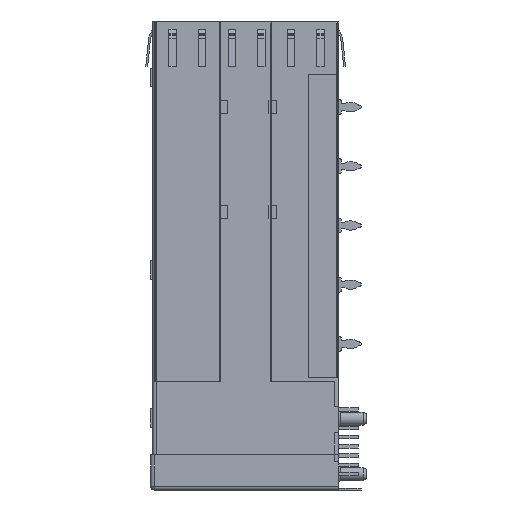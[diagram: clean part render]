
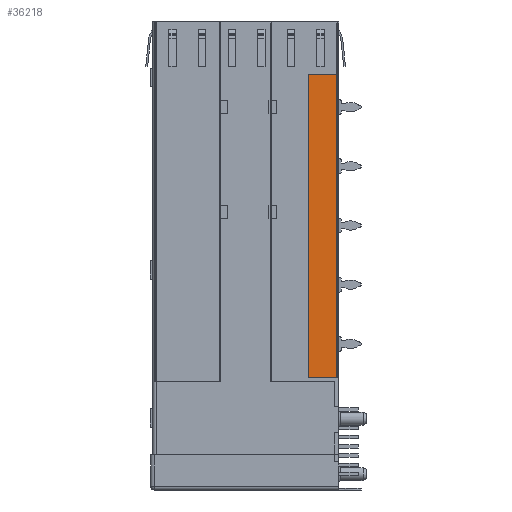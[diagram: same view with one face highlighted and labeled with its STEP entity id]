
A CAD part, left-side view. The second image highlights one B-rep face of the part: STEP entity #36218.
In plain terms, the highlighted planar face has unit normal (-1, 0, 0).
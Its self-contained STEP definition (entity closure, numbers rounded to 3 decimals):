
#994 = EDGE_CURVE ( 'NONE', #111119, #138704, #77386, .T. ) ;
#2453 = EDGE_CURVE ( 'NONE', #151196, #73091, #64680, .T. ) ;
#3874 = LINE ( 'NONE', #181348, #121492 ) ;
#19554 = CARTESIAN_POINT ( 'NONE',  ( -85.875, 0., 0. ) ) ;
#23918 = VECTOR ( 'NONE', #111802, 1000. ) ;
#35038 = PLANE ( 'NONE',  #102233 ) ;
#36218 = ADVANCED_FACE ( 'NONE', ( #37004 ), #35038, .F. ) ;
#37004 = FACE_OUTER_BOUND ( 'NONE', #58368, .T. ) ;
#50426 = DIRECTION ( 'NONE',  ( 0., 0., 1. ) ) ;
#53252 = CARTESIAN_POINT ( 'NONE',  ( -85.875, 0., -7.1 ) ) ;
#58368 = EDGE_LOOP ( 'NONE', ( #176981, #84450, #162542, #115230 ) ) ;
#61356 = VECTOR ( 'NONE', #175845, 1000. ) ;
#64680 = LINE ( 'NONE', #157366, #23918 ) ;
#71446 = DIRECTION ( 'NONE',  ( 0., 0., 1. ) ) ;
#73091 = VERTEX_POINT ( 'NONE', #112980 ) ;
#77386 = LINE ( 'NONE', #132464, #190029 ) ;
#84450 = ORIENTED_EDGE ( 'NONE', *, *, #994, .F. ) ;
#90365 = CARTESIAN_POINT ( 'NONE',  ( -85.875, 4.1, -7.1 ) ) ;
#95912 = DIRECTION ( 'NONE',  ( 1., 0., 0. ) ) ;
#102233 = AXIS2_PLACEMENT_3D ( 'NONE', #19554, #95912, #50426 ) ;
#109417 = EDGE_CURVE ( 'NONE', #73091, #111119, #3874, .T. ) ;
#111119 = VERTEX_POINT ( 'NONE', #154861 ) ;
#111802 = DIRECTION ( 'NONE',  ( 0., 0., -1. ) ) ;
#112980 = CARTESIAN_POINT ( 'NONE',  ( -85.875, 0., -48.1 ) ) ;
#115230 = ORIENTED_EDGE ( 'NONE', *, *, #2453, .F. ) ;
#121492 = VECTOR ( 'NONE', #135231, 1000. ) ;
#128311 = CARTESIAN_POINT ( 'NONE',  ( -85.875, 0., -7.1 ) ) ;
#131094 = EDGE_CURVE ( 'NONE', #138704, #151196, #152555, .T. ) ;
#132464 = CARTESIAN_POINT ( 'NONE',  ( -85.875, 4.1, -7.1 ) ) ;
#135231 = DIRECTION ( 'NONE',  ( 0., 1., 0. ) ) ;
#138704 = VERTEX_POINT ( 'NONE', #90365 ) ;
#151196 = VERTEX_POINT ( 'NONE', #128311 ) ;
#152555 = LINE ( 'NONE', #53252, #61356 ) ;
#154861 = CARTESIAN_POINT ( 'NONE',  ( -85.875, 4.1, -48.1 ) ) ;
#157366 = CARTESIAN_POINT ( 'NONE',  ( -85.875, 0., -7.1 ) ) ;
#162542 = ORIENTED_EDGE ( 'NONE', *, *, #109417, .F. ) ;
#175845 = DIRECTION ( 'NONE',  ( 0., -1., 0. ) ) ;
#176981 = ORIENTED_EDGE ( 'NONE', *, *, #131094, .F. ) ;
#181348 = CARTESIAN_POINT ( 'NONE',  ( -85.875, 0., -48.1 ) ) ;
#190029 = VECTOR ( 'NONE', #71446, 1000. ) ;
